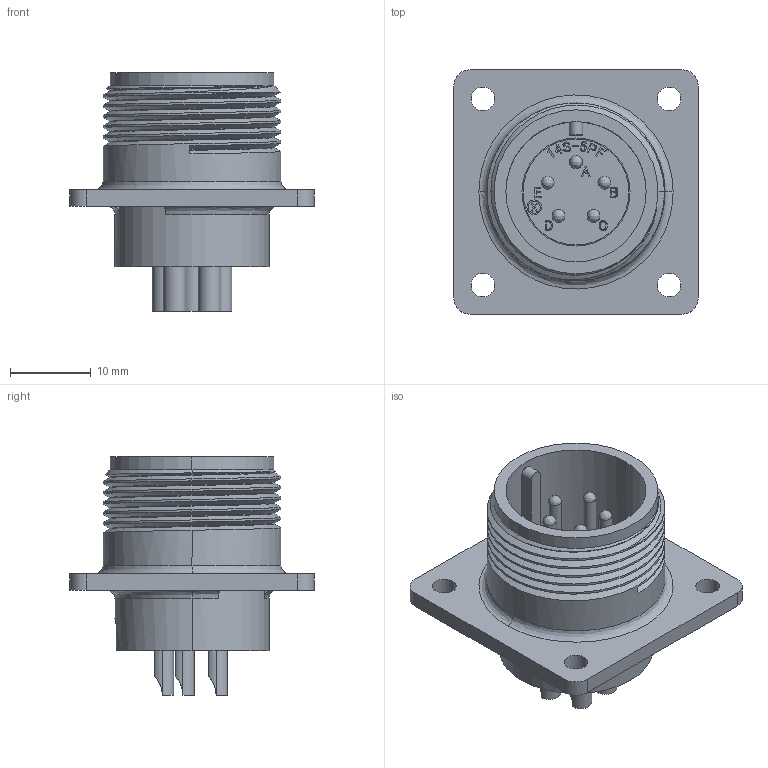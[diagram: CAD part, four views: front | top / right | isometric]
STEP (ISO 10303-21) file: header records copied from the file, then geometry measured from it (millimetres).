
FILE_DESCRIPTION (( 'STEP AP203' ), '1' );
FILE_NAME ('DMS3102A14S-5P.STEP', '2017-03-02T06:09:18', ( '' ), ( '' ), 'SwSTEP 2.0', 'SolidWorks 2015', '' );
FILE_SCHEMA (( 'CONFIG_CONTROL_DESIGN' ));
Length unit declared in the file: millimetre
Products named in the file (1): DMS3102A14S-5P
Bounding box: 30.2 x 30.2 x 29.47 mm (x, y, z)
Volume: 5538.5 mm3; surface area: 6443.5 mm2
Topology: 1 solids, 1 shells, 701 faces, 1883 edges, 1225 vertices
Faces by surface type: plane 329, bspline 217, cylinder 143, cone 12
Entity records: 29003 total; most frequent: CARTESIAN_POINT 12995, ORIENTED_EDGE 3726, DIRECTION 2539, EDGE_CURVE 1863, VERTEX_POINT 1225, VECTOR 1143, LINE 1143, EDGE_LOOP 772
